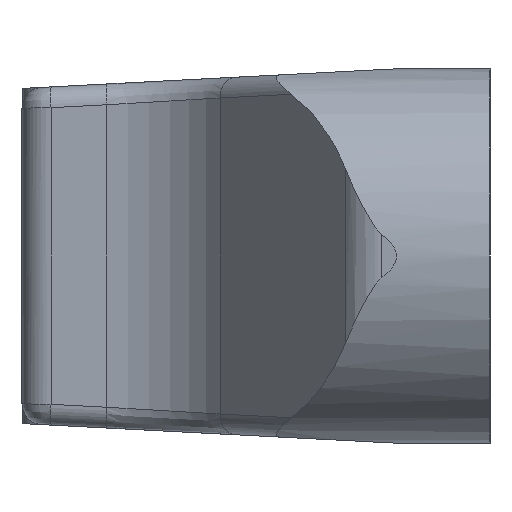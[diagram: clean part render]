
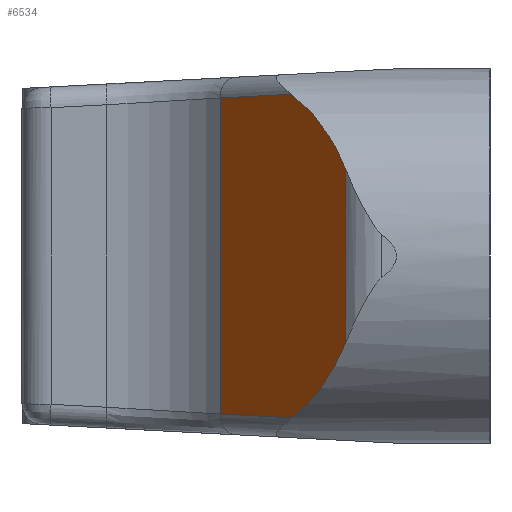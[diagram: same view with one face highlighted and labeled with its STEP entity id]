
A CAD part, left-side view. The second image highlights one B-rep face of the part: STEP entity #6534.
In plain terms, the highlighted planar face has unit normal (-0.602, 0.798, 0).
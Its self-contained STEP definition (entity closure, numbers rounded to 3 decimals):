
#243 = CARTESIAN_POINT ( 'NONE',  ( 1.021, 2.431, 9. ) ) ;
#363 = DIRECTION ( 'NONE',  ( 0.798, 0.602, 0. ) ) ;
#393 = CARTESIAN_POINT ( 'NONE',  ( 9.037, 8.476, -7.596 ) ) ;
#783 = CARTESIAN_POINT ( 'NONE',  ( 4.47, 5.032, -7.777 ) ) ;
#988 = DIRECTION ( 'NONE',  ( -0.798, -0.602, 0.032 ) ) ;
#1673 = CARTESIAN_POINT ( 'NONE',  ( 1.021, 2.431, -4.163 ) ) ;
#1726 = LINE ( 'NONE', #3693, #8186 ) ;
#1861 = CARTESIAN_POINT ( 'NONE',  ( 1.812, 3.028, 5.679 ) ) ;
#1876 = EDGE_CURVE ( 'NONE', #3663, #3757, #1726, .T. ) ;
#2204 = VERTEX_POINT ( 'NONE', #2574 ) ;
#2224 = CARTESIAN_POINT ( 'NONE',  ( 1.021, 2.431, -4.163 ) ) ;
#2395 = AXIS2_PLACEMENT_3D ( 'NONE', #10485, #5421, #363 ) ;
#2574 = CARTESIAN_POINT ( 'NONE',  ( 1.021, 2.431, 4.163 ) ) ;
#2721 = ORIENTED_EDGE ( 'NONE', *, *, #7445, .T. ) ;
#2967 = DIRECTION ( 'NONE',  ( 0., 0., -1. ) ) ;
#2988 = ORIENTED_EDGE ( 'NONE', *, *, #10303, .F. ) ;
#3081 = VECTOR ( 'NONE', #2967, 1000. ) ;
#3552 = FACE_OUTER_BOUND ( 'NONE', #4736, .T. ) ;
#3659 = LINE ( 'NONE', #9199, #7857 ) ;
#3663 = VERTEX_POINT ( 'NONE', #783 ) ;
#3693 = CARTESIAN_POINT ( 'NONE',  ( 6.507, 6.568, -7.696 ) ) ;
#3726 = CARTESIAN_POINT ( 'NONE',  ( 1.812, 3.028, -5.679 ) ) ;
#3757 = VERTEX_POINT ( 'NONE', #393 ) ;
#3947 = CARTESIAN_POINT ( 'NONE',  ( 4.47, 5.032, -7.777 ) ) ;
#4702 = VERTEX_POINT ( 'NONE', #1673 ) ;
#4736 = EDGE_LOOP ( 'NONE', ( #10679, #2988, #2721, #6531, #5955, #7502 ) ) ;
#5421 = DIRECTION ( 'NONE',  ( 0.602, -0.798, 0. ) ) ;
#5774 = CARTESIAN_POINT ( 'NONE',  ( 4.47, 5.032, 7.777 ) ) ;
#5955 = ORIENTED_EDGE ( 'NONE', *, *, #6781, .F. ) ;
#6012 = VECTOR ( 'NONE', #988, 1000. ) ;
#6047 = CARTESIAN_POINT ( 'NONE',  ( 4.47, 5.032, 7.777 ) ) ;
#6531 = ORIENTED_EDGE ( 'NONE', *, *, #1876, .F. ) ;
#6534 = ADVANCED_FACE ( 'NONE', ( #3552 ), #7875, .F. ) ;
#6781 = EDGE_CURVE ( 'NONE', #4702, #3663, #10065, .T. ) ;
#6870 = CARTESIAN_POINT ( 'NONE',  ( 2.992, 3.918, 6.916 ) ) ;
#6912 = DIRECTION ( 'NONE',  ( 0.798, 0.602, 0.032 ) ) ;
#7445 = EDGE_CURVE ( 'NONE', #8558, #3757, #3659, .T. ) ;
#7502 = ORIENTED_EDGE ( 'NONE', *, *, #7717, .F. ) ;
#7717 = EDGE_CURVE ( 'NONE', #2204, #4702, #9817, .T. ) ;
#7732 = CARTESIAN_POINT ( 'NONE',  ( 1.021, 2.431, 4.163 ) ) ;
#7857 = VECTOR ( 'NONE', #10064, 1000. ) ;
#7875 = PLANE ( 'NONE',  #2395 ) ;
#8180 = CARTESIAN_POINT ( 'NONE',  ( 9.037, 8.476, 7.596 ) ) ;
#8186 = VECTOR ( 'NONE', #6912, 1000. ) ;
#8349 =( BOUNDED_CURVE ( )  B_SPLINE_CURVE ( 3, ( #6047, #6870, #1861, #7732 ),
 .UNSPECIFIED., .F., .T. ) 
 B_SPLINE_CURVE_WITH_KNOTS ( ( 4, 4 ),
 ( 5.24, 5.802 ),
 .UNSPECIFIED. ) 
 CURVE ( )  GEOMETRIC_REPRESENTATION_ITEM ( )  RATIONAL_B_SPLINE_CURVE ( ( 1., 0.974, 0.974, 1. ) ) 
 REPRESENTATION_ITEM ( '' )  );
#8558 = VERTEX_POINT ( 'NONE', #8180 ) ;
#8656 = VERTEX_POINT ( 'NONE', #5774 ) ;
#8979 = CARTESIAN_POINT ( 'NONE',  ( 2.992, 3.918, -6.916 ) ) ;
#9199 = CARTESIAN_POINT ( 'NONE',  ( 9.037, 8.476, 9. ) ) ;
#9399 = CARTESIAN_POINT ( 'NONE',  ( 9.013, 8.458, 7.597 ) ) ;
#9817 = LINE ( 'NONE', #243, #3081 ) ;
#10064 = DIRECTION ( 'NONE',  ( 0., 0., -1. ) ) ;
#10065 =( BOUNDED_CURVE ( )  B_SPLINE_CURVE ( 3, ( #2224, #3726, #8979, #3947 ),
 .UNSPECIFIED., .F., .F. ) 
 B_SPLINE_CURVE_WITH_KNOTS ( ( 4, 4 ),
 ( 0.481, 1.043 ),
 .UNSPECIFIED. ) 
 CURVE ( )  GEOMETRIC_REPRESENTATION_ITEM ( )  RATIONAL_B_SPLINE_CURVE ( ( 1., 0.974, 0.974, 1. ) ) 
 REPRESENTATION_ITEM ( '' )  );
#10289 = EDGE_CURVE ( 'NONE', #8656, #2204, #8349, .T. ) ;
#10303 = EDGE_CURVE ( 'NONE', #8558, #8656, #10515, .T. ) ;
#10485 = CARTESIAN_POINT ( 'NONE',  ( 9.037, 8.476, 9. ) ) ;
#10515 = LINE ( 'NONE', #9399, #6012 ) ;
#10679 = ORIENTED_EDGE ( 'NONE', *, *, #10289, .F. ) ;
